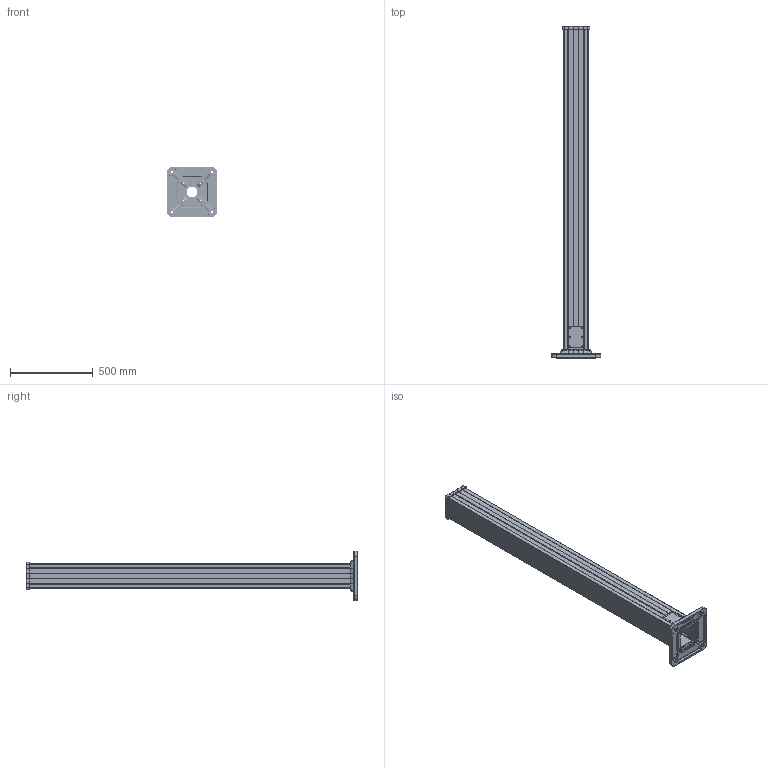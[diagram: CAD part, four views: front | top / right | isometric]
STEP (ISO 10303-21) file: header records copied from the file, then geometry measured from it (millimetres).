
FILE_DESCRIPTION (( 'STEP AP203' ), '1' );
FILE_NAME ('TK150.200.STEP', '2024-10-18T07:55:43', ( '' ), ( '' ), 'SwSTEP 2.0', 'SolidWorks 2022', '' );
FILE_SCHEMA (( 'CONFIG_CONTROL_DESIGN' ));
Products named in the file (1): TK150.200
Bounding box: 300 x 2000 x 300 mm (x, y, z)
Volume: 11846583 mm3; surface area: 2687686.8 mm2
Topology: 8 solids, 284 shells, 2664 faces, 6824 edges, 4195 vertices
Faces by surface type: cone 910, cylinder 727, plane 591, bspline 364, torus 50, sphere 22
Full cylindrical faces by diameter (mm): 5 x54, 5.5 x6, 8.5 x272, 9.5 x6, 10 x32, 11 x8, 13.5 x4, 16 x8, 19 x4, 22.5 x4, 70 x1, 85 x2
Entity records: 77431 total; most frequent: CARTESIAN_POINT 25645, DIRECTION 10574, ORIENTED_EDGE 9176, EDGE_CURVE 4588, AXIS2_PLACEMENT_3D 4485, EDGE_LOOP 4076, VERTEX_POINT 3312, FACE_OUTER_BOUND 3093
